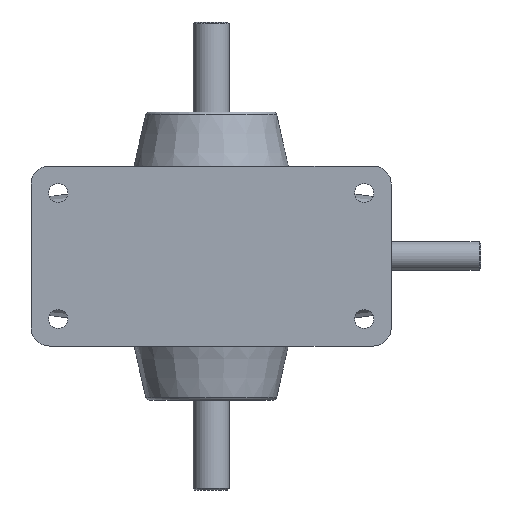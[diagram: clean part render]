
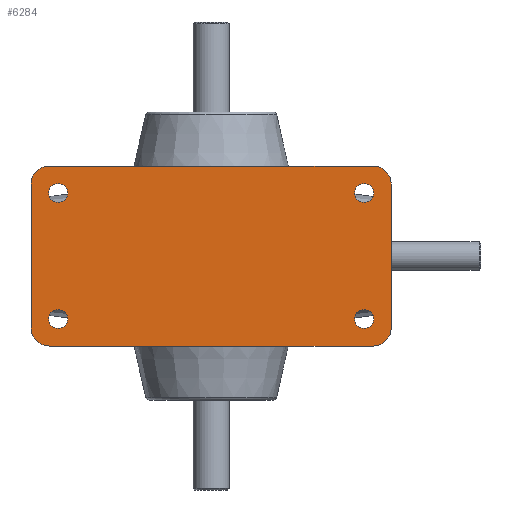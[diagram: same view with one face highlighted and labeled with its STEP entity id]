
A CAD part, front view. The second image highlights one B-rep face of the part: STEP entity #6284.
In plain terms, the highlighted planar face has unit normal (0, -1, 0).
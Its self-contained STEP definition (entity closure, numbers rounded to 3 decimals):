
#74 = DIRECTION ( 'NONE',  ( 0., 1., 0. ) ) ;
#82 = DIRECTION ( 'NONE',  ( 0., 1., 0. ) ) ;
#88 = VERTEX_POINT ( 'NONE', #6872 ) ;
#110 = CARTESIAN_POINT ( 'NONE',  ( -45., -32., -20. ) ) ;
#114 = CARTESIAN_POINT ( 'NONE',  ( -45., -32., -25. ) ) ;
#141 = CIRCLE ( 'NONE', #575, 2.65 ) ;
#447 = CARTESIAN_POINT ( 'NONE',  ( 45., -32., 20. ) ) ;
#462 = ORIENTED_EDGE ( 'NONE', *, *, #2186, .F. ) ;
#541 = CARTESIAN_POINT ( 'NONE',  ( 45., -32., 25. ) ) ;
#575 = AXIS2_PLACEMENT_3D ( 'NONE', #4491, #1642, #3759 ) ;
#592 = CARTESIAN_POINT ( 'NONE',  ( 42.5, -32., -20.15 ) ) ;
#648 = CARTESIAN_POINT ( 'NONE',  ( -50., -32., 20. ) ) ;
#674 = CARTESIAN_POINT ( 'NONE',  ( -50., -32., -40. ) ) ;
#699 = DIRECTION ( 'NONE',  ( -1., 0., 0. ) ) ;
#711 = CARTESIAN_POINT ( 'NONE',  ( 50., -32., -20. ) ) ;
#732 = ORIENTED_EDGE ( 'NONE', *, *, #5049, .T. ) ;
#834 = VECTOR ( 'NONE', #5012, 1000. ) ;
#874 = EDGE_CURVE ( 'NONE', #8265, #6369, #4261, .T. ) ;
#942 = VERTEX_POINT ( 'NONE', #2662 ) ;
#953 = DIRECTION ( 'NONE',  ( 0., 0., 1. ) ) ;
#993 = AXIS2_PLACEMENT_3D ( 'NONE', #2020, #2681, #6714 ) ;
#994 = CARTESIAN_POINT ( 'NONE',  ( 45., -32., -25. ) ) ;
#1086 = DIRECTION ( 'NONE',  ( 0., 0., 1. ) ) ;
#1122 = ORIENTED_EDGE ( 'NONE', *, *, #7721, .T. ) ;
#1186 = AXIS2_PLACEMENT_3D ( 'NONE', #447, #3158, #5191 ) ;
#1282 = AXIS2_PLACEMENT_3D ( 'NONE', #7486, #2847, #4152 ) ;
#1372 = ORIENTED_EDGE ( 'NONE', *, *, #4718, .T. ) ;
#1428 = EDGE_CURVE ( 'NONE', #6190, #1513, #5487, .T. ) ;
#1445 = CARTESIAN_POINT ( 'NONE',  ( 45., -32., -20. ) ) ;
#1499 = EDGE_LOOP ( 'NONE', ( #7691, #732 ) ) ;
#1513 = VERTEX_POINT ( 'NONE', #114 ) ;
#1642 = DIRECTION ( 'NONE',  ( 0., 1., 0. ) ) ;
#1870 = FACE_OUTER_BOUND ( 'NONE', #7304, .T. ) ;
#1920 = DIRECTION ( 'NONE',  ( 0., -1., 0. ) ) ;
#1952 = ORIENTED_EDGE ( 'NONE', *, *, #8347, .F. ) ;
#1984 = CIRCLE ( 'NONE', #993, 2.65 ) ;
#2020 = CARTESIAN_POINT ( 'NONE',  ( 42.5, -32., -17.5 ) ) ;
#2186 = EDGE_CURVE ( 'NONE', #88, #7403, #6738, .T. ) ;
#2247 = VERTEX_POINT ( 'NONE', #711 ) ;
#2276 = EDGE_CURVE ( 'NONE', #4016, #6849, #4433, .T. ) ;
#2303 = ORIENTED_EDGE ( 'NONE', *, *, #4871, .T. ) ;
#2451 = DIRECTION ( 'NONE',  ( 0., 1., 0. ) ) ;
#2501 = FACE_BOUND ( 'NONE', #3522, .T. ) ;
#2583 = ORIENTED_EDGE ( 'NONE', *, *, #8426, .F. ) ;
#2662 = CARTESIAN_POINT ( 'NONE',  ( 42.5, -32., 20.15 ) ) ;
#2681 = DIRECTION ( 'NONE',  ( 0., 1., 0. ) ) ;
#2775 = CIRCLE ( 'NONE', #5901, 2.65 ) ;
#2779 = ORIENTED_EDGE ( 'NONE', *, *, #2276, .F. ) ;
#2823 = CIRCLE ( 'NONE', #1282, 2.65 ) ;
#2847 = DIRECTION ( 'NONE',  ( 0., 1., 0. ) ) ;
#2892 = VERTEX_POINT ( 'NONE', #5792 ) ;
#2941 = DIRECTION ( 'NONE',  ( 0., 0., -1. ) ) ;
#3158 = DIRECTION ( 'NONE',  ( 0., 1., 0. ) ) ;
#3178 = AXIS2_PLACEMENT_3D ( 'NONE', #110, #8144, #2941 ) ;
#3181 = CARTESIAN_POINT ( 'NONE',  ( -42.5, -32., 14.85 ) ) ;
#3248 = VERTEX_POINT ( 'NONE', #7055 ) ;
#3354 = CARTESIAN_POINT ( 'NONE',  ( 50., -32., -40. ) ) ;
#3363 = ORIENTED_EDGE ( 'NONE', *, *, #3371, .T. ) ;
#3371 = EDGE_CURVE ( 'NONE', #2892, #3248, #4589, .T. ) ;
#3463 = AXIS2_PLACEMENT_3D ( 'NONE', #7704, #4326, #953 ) ;
#3496 = DIRECTION ( 'NONE',  ( 0., 1., 0. ) ) ;
#3522 = EDGE_LOOP ( 'NONE', ( #6942, #1372 ) ) ;
#3528 = VECTOR ( 'NONE', #5496, 1000. ) ;
#3603 = AXIS2_PLACEMENT_3D ( 'NONE', #1445, #3496, #6221 ) ;
#3666 = FACE_BOUND ( 'NONE', #6095, .T. ) ;
#3759 = DIRECTION ( 'NONE',  ( 0., 0., 1. ) ) ;
#3807 = EDGE_CURVE ( 'NONE', #7161, #7292, #2775, .T. ) ;
#3861 = AXIS2_PLACEMENT_3D ( 'NONE', #8081, #82, #6158 ) ;
#3921 = DIRECTION ( 'NONE',  ( 0., 0., 1. ) ) ;
#3977 = DIRECTION ( 'NONE',  ( 0., 0., 1. ) ) ;
#4016 = VERTEX_POINT ( 'NONE', #8277 ) ;
#4079 = CARTESIAN_POINT ( 'NONE',  ( 50., -32., 20. ) ) ;
#4146 = AXIS2_PLACEMENT_3D ( 'NONE', #4566, #5857, #3921 ) ;
#4152 = DIRECTION ( 'NONE',  ( 0., 0., 1. ) ) ;
#4153 = CIRCLE ( 'NONE', #4146, 2.65 ) ;
#4232 = CARTESIAN_POINT ( 'NONE',  ( -45., -32., 20. ) ) ;
#4261 = CIRCLE ( 'NONE', #3861, 2.65 ) ;
#4326 = DIRECTION ( 'NONE',  ( 0., 1., 0. ) ) ;
#4433 = LINE ( 'NONE', #6935, #834 ) ;
#4491 = CARTESIAN_POINT ( 'NONE',  ( 42.5, -32., 17.5 ) ) ;
#4503 = EDGE_CURVE ( 'NONE', #7403, #4016, #7470, .T. ) ;
#4563 = VECTOR ( 'NONE', #699, 1000. ) ;
#4566 = CARTESIAN_POINT ( 'NONE',  ( -42.5, -32., 17.5 ) ) ;
#4578 = EDGE_LOOP ( 'NONE', ( #5228, #1122 ) ) ;
#4583 = DIRECTION ( 'NONE',  ( 0., 0., -1. ) ) ;
#4589 = CIRCLE ( 'NONE', #3463, 2.65 ) ;
#4667 = LINE ( 'NONE', #3354, #5253 ) ;
#4718 = EDGE_CURVE ( 'NONE', #6369, #8265, #1984, .T. ) ;
#4871 = EDGE_CURVE ( 'NONE', #3248, #2892, #2823, .T. ) ;
#5012 = DIRECTION ( 'NONE',  ( 1., 0., 0. ) ) ;
#5028 = ORIENTED_EDGE ( 'NONE', *, *, #6382, .T. ) ;
#5037 = FACE_BOUND ( 'NONE', #4578, .T. ) ;
#5049 = EDGE_CURVE ( 'NONE', #7730, #942, #141, .T. ) ;
#5115 = CARTESIAN_POINT ( 'NONE',  ( -42.5, -32., 17.5 ) ) ;
#5114 = AXIS2_PLACEMENT_3D ( 'NONE', #7402, #6578, #5955 ) ;
#5159 = ORIENTED_EDGE ( 'NONE', *, *, #4503, .F. ) ;
#5191 = DIRECTION ( 'NONE',  ( 0., 0., -1. ) ) ;
#5228 = ORIENTED_EDGE ( 'NONE', *, *, #3807, .T. ) ;
#5253 = VECTOR ( 'NONE', #3977, 1000. ) ;
#5299 = CARTESIAN_POINT ( 'NONE',  ( -50., -32., -40. ) ) ;
#5487 = LINE ( 'NONE', #7984, #4563 ) ;
#5496 = DIRECTION ( 'NONE',  ( 0., 0., 1. ) ) ;
#5554 = CIRCLE ( 'NONE', #1186, 5. ) ;
#5688 = FACE_BOUND ( 'NONE', #1499, .T. ) ;
#5792 = CARTESIAN_POINT ( 'NONE',  ( -42.5, -32., -14.85 ) ) ;
#5808 = CARTESIAN_POINT ( 'NONE',  ( 42.5, -32., 14.85 ) ) ;
#5857 = DIRECTION ( 'NONE',  ( 0., 1., 0. ) ) ;
#5901 = AXIS2_PLACEMENT_3D ( 'NONE', #5115, #2451, #1086 ) ;
#5955 = DIRECTION ( 'NONE',  ( 0., 0., 1. ) ) ;
#6095 = EDGE_LOOP ( 'NONE', ( #3363, #2303 ) ) ;
#6158 = DIRECTION ( 'NONE',  ( 0., 0., 1. ) ) ;
#6185 = DIRECTION ( 'NONE',  ( 0., 0., -1. ) ) ;
#6190 = VERTEX_POINT ( 'NONE', #994 ) ;
#6221 = DIRECTION ( 'NONE',  ( 0., 0., -1. ) ) ;
#6284 = ADVANCED_FACE ( 'NONE', ( #2501, #5688, #3666, #5037, #1870 ), #6660, .T. ) ;
#6358 = AXIS2_PLACEMENT_3D ( 'NONE', #4232, #74, #6185 ) ;
#6369 = VERTEX_POINT ( 'NONE', #592 ) ;
#6382 = EDGE_CURVE ( 'NONE', #2247, #7009, #4667, .T. ) ;
#6396 = EDGE_CURVE ( 'NONE', #942, #7730, #6789, .T. ) ;
#6566 = CIRCLE ( 'NONE', #3603, 5. ) ;
#6578 = DIRECTION ( 'NONE',  ( 0., 1., 0. ) ) ;
#6660 = PLANE ( 'NONE',  #8322 ) ;
#6714 = DIRECTION ( 'NONE',  ( 0., 0., 1. ) ) ;
#6738 = LINE ( 'NONE', #674, #3528 ) ;
#6789 = CIRCLE ( 'NONE', #5114, 2.65 ) ;
#6849 = VERTEX_POINT ( 'NONE', #541 ) ;
#6872 = CARTESIAN_POINT ( 'NONE',  ( -50., -32., -20. ) ) ;
#6935 = CARTESIAN_POINT ( 'NONE',  ( -45., -32., 25. ) ) ;
#6942 = ORIENTED_EDGE ( 'NONE', *, *, #874, .T. ) ;
#7009 = VERTEX_POINT ( 'NONE', #4079 ) ;
#7055 = CARTESIAN_POINT ( 'NONE',  ( -42.5, -32., -20.15 ) ) ;
#7083 = ORIENTED_EDGE ( 'NONE', *, *, #7835, .F. ) ;
#7161 = VERTEX_POINT ( 'NONE', #7616 ) ;
#7292 = VERTEX_POINT ( 'NONE', #3181 ) ;
#7304 = EDGE_LOOP ( 'NONE', ( #462, #1952, #8198, #2583, #5028, #7083, #2779, #5159 ) ) ;
#7402 = CARTESIAN_POINT ( 'NONE',  ( 42.5, -32., 17.5 ) ) ;
#7403 = VERTEX_POINT ( 'NONE', #648 ) ;
#7470 = CIRCLE ( 'NONE', #6358, 5. ) ;
#7486 = CARTESIAN_POINT ( 'NONE',  ( -42.5, -32., -17.5 ) ) ;
#7616 = CARTESIAN_POINT ( 'NONE',  ( -42.5, -32., 20.15 ) ) ;
#7691 = ORIENTED_EDGE ( 'NONE', *, *, #6396, .T. ) ;
#7704 = CARTESIAN_POINT ( 'NONE',  ( -42.5, -32., -17.5 ) ) ;
#7721 = EDGE_CURVE ( 'NONE', #7292, #7161, #4153, .T. ) ;
#7730 = VERTEX_POINT ( 'NONE', #5808 ) ;
#7835 = EDGE_CURVE ( 'NONE', #6849, #7009, #5554, .T. ) ;
#7984 = CARTESIAN_POINT ( 'NONE',  ( -45., -32., -25. ) ) ;
#8081 = CARTESIAN_POINT ( 'NONE',  ( 42.5, -32., -17.5 ) ) ;
#8144 = DIRECTION ( 'NONE',  ( 0., 1., 0. ) ) ;
#8198 = ORIENTED_EDGE ( 'NONE', *, *, #1428, .F. ) ;
#8265 = VERTEX_POINT ( 'NONE', #8636 ) ;
#8277 = CARTESIAN_POINT ( 'NONE',  ( -45., -32., 25. ) ) ;
#8322 = AXIS2_PLACEMENT_3D ( 'NONE', #5299, #1920, #4583 ) ;
#8347 = EDGE_CURVE ( 'NONE', #1513, #88, #8499, .T. ) ;
#8426 = EDGE_CURVE ( 'NONE', #2247, #6190, #6566, .T. ) ;
#8499 = CIRCLE ( 'NONE', #3178, 5. ) ;
#8636 = CARTESIAN_POINT ( 'NONE',  ( 42.5, -32., -14.85 ) ) ;
